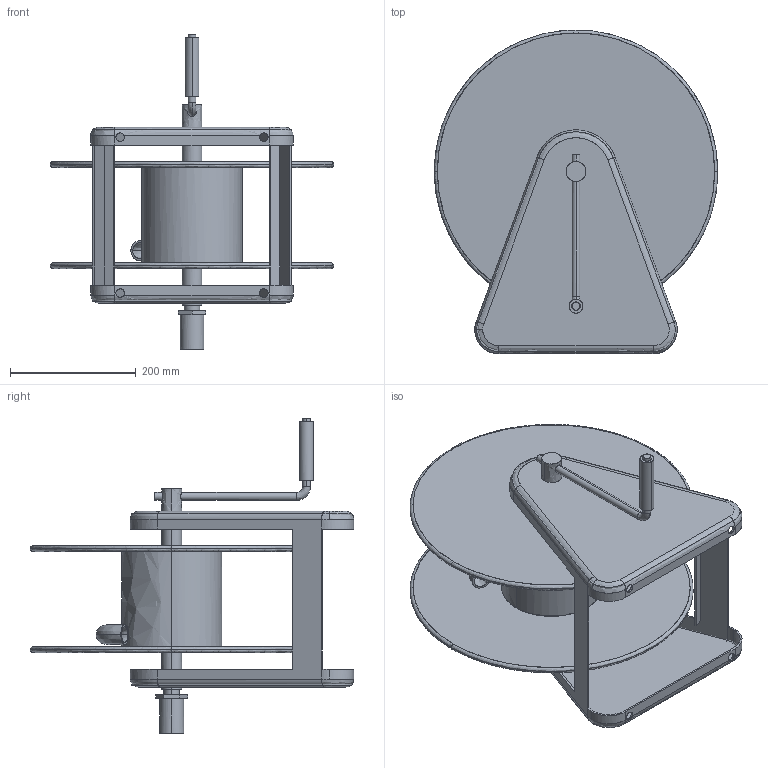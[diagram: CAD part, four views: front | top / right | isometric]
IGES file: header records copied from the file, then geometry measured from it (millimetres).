
Start section: Comment
Global section: file name: CA3X106 X.igs; native system:  By UGS Corp.; preprocessor: XPlus GENERIC/IGES 3.0; author: Author; organization: Title; date: 20121228.150432; units: millimetre
Bounding box: 450.85 x 514.77 x 500.89 mm (x, y, z)
Surface area: 1354585 mm2 (no closed solid volume)
Topology: 0 solids, 0 shells, 142 faces, 692 edges, 692 vertices
Faces by surface type: bspline 142
